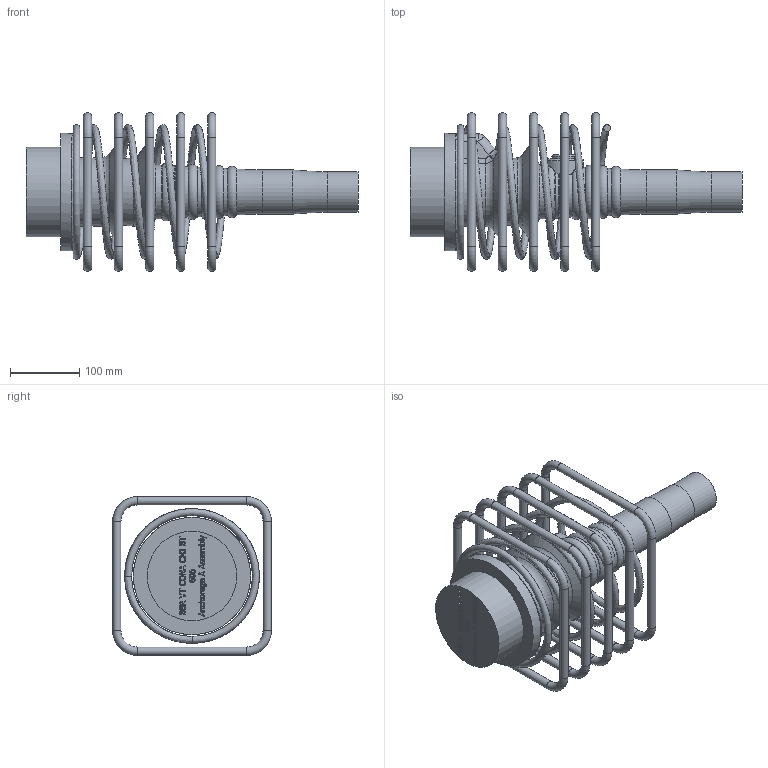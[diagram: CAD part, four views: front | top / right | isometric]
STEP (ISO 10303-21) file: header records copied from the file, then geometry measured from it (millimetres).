
FILE_DESCRIPTION(/* description */ (''),/* implementation_level */ '2;1');
FILE_NAME(/* name */ 'BBR VT CONA CMI BT 606_Anchorage A Assembly_CS-34,28.stp',/* time_stamp */ '2025-04-30T09:37:14+02:00',/* author */ ('tk'),/* organization */ (''),/* preprocessor_version */ 'ST-DEVELOPER v20',/* originating_system */ 'Autodesk Inventor 2024',/* authorisation */ '');
FILE_SCHEMA (('AUTOMOTIVE_DESIGN { 1 0 10303 214 3 1 1 }'));
Length unit declared in the file: millimetre
Products named in the file (1): BBR VT CONA CMI BT 606_Anchorage A Assembly_CS-34,28
Bounding box: 480.94 x 230 x 230 mm (x, y, z)
Volume: 3990731 mm3; surface area: 446924 mm2
Topology: 7 solids, 7 shells, 746 faces, 1984 edges, 1295 vertices
Faces by surface type: bspline 319, plane 310, torus 59, cylinder 37, sphere 12, cone 9
Full cylindrical faces by diameter (mm): 12 x20, 34 x1, 57 x1, 59 x1, 64 x1, 130 x1, 133.801 x1, 139.387 x1, 170 x1
Entity records: 28301 total; most frequent: CARTESIAN_POINT 10914, ORIENTED_EDGE 3956, DIRECTION 2477, EDGE_CURVE 1978, VERTEX_POINT 1295, LINE 1067, VECTOR 1067, EDGE_LOOP 805
